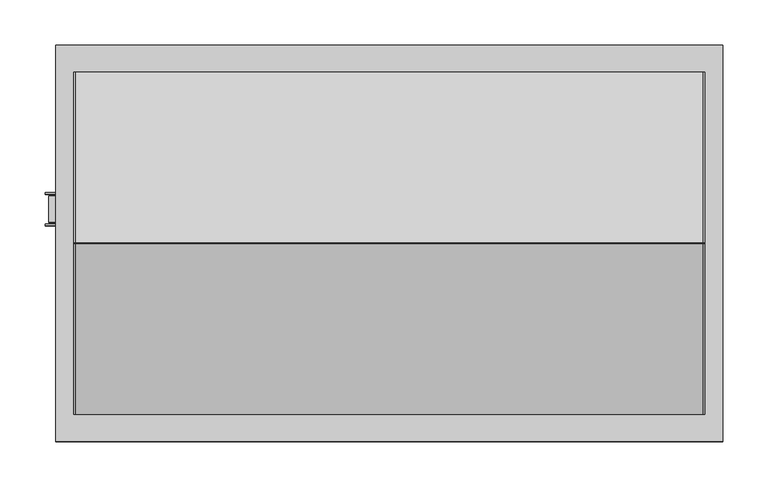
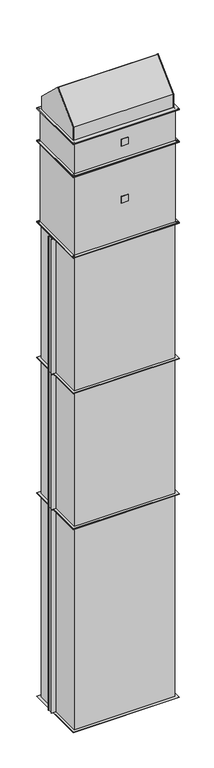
"""IFC4 building model written with IfcOpenShell, lengths in millimetres: proxy geometry, KORF_Завеса_БезНагрева_PWZ_C : PWZ-C 70-40 H."""

from ifc_helpers import new_model, si_unit, point, frame, frame_2d, origin, origin_with_axes, place, context, project, spatial, polyline, circle_curve, trimmed, segment, composite_curve, outline, extrude, source, transform, mapped, element, save


def mechanical_equipment_e74dfba3(model_context):
    return source(origin(), model_context, "Body", "SweptSolid", [
        extrude(outline(polyline([(25.0, -205.0), (-25.0, -205.0), (-25.0, -203.0), (25.0, -203.0), (25.0, -205.0)])), frame((0.0, 0.0, 4196.0), z_axis=(0.0, 0.0, 1.0), x_axis=(1.0, 0.0, 0.0)), (0.0, 0.0, 1.0), 50.0),
        extrude(outline(polyline([(-370.0, -220.0), (-370.0, 220.0), (370.0, 220.0), (370.0, -220.0), (-370.0, -220.0)]), holes=[polyline([(-350.0, -200.0), (350.0, -200.0), (350.0, 200.0), (-350.0, 200.0), (-350.0, -200.0)]), composite_curve([segment(trimmed(circle_curve(frame_2d((360.0, -210.0)), 4.5), [point((364.5, -210.0))], [point((355.5, -210.0))], True, "CARTESIAN"), True, "CONTINUOUS"), segment(trimmed(circle_curve(frame_2d((360.0, -210.0)), 4.5), [point((355.5, -210.0))], [point((364.5, -210.0))], True, "CARTESIAN"), True, "CONTINUOUS")], self_intersect=False), composite_curve([segment(trimmed(circle_curve(frame_2d((-360.0, -210.0)), 4.5), [point((-355.5, -210.0))], [point((-364.5, -210.0))], True, "CARTESIAN"), True, "CONTINUOUS"), segment(trimmed(circle_curve(frame_2d((-360.0, -210.0)), 4.5), [point((-364.5, -210.0))], [point((-355.5, -210.0))], True, "CARTESIAN"), True, "CONTINUOUS")], self_intersect=False), composite_curve([segment(trimmed(circle_curve(frame_2d((-360.0, 210.0)), 4.5), [point((-355.5, 210.0))], [point((-364.5, 210.0))], True, "CARTESIAN"), True, "CONTINUOUS"), segment(trimmed(circle_curve(frame_2d((-360.0, 210.0)), 4.5), [point((-364.5, 210.0))], [point((-355.5, 210.0))], True, "CARTESIAN"), True, "CONTINUOUS")], self_intersect=False), composite_curve([segment(trimmed(circle_curve(frame_2d((360.0, 210.0)), 4.5), [point((364.5, 210.0))], [point((355.5, 210.0))], True, "CARTESIAN"), True, "CONTINUOUS"), segment(trimmed(circle_curve(frame_2d((360.0, 210.0)), 4.5), [point((355.5, 210.0))], [point((364.5, 210.0))], True, "CARTESIAN"), True, "CONTINUOUS")], self_intersect=False)]), frame((0.0, 0.0, 4100.0), z_axis=(0.0, 0.0, 1.0), x_axis=(1.0, 0.0, 0.0)), (0.0, 0.0, 1.0), 5.0),
        extrude(outline(polyline([(-370.0, -220.0), (-370.0, 220.0), (370.0, 220.0), (370.0, -220.0), (-370.0, -220.0)]), holes=[polyline([(-350.0, -200.0), (350.0, -200.0), (350.0, 200.0), (-350.0, 200.0), (-350.0, -200.0)]), composite_curve([segment(trimmed(circle_curve(frame_2d((360.0, -210.0)), 4.5), [point((364.5, -210.0))], [point((355.5, -210.0))], True, "CARTESIAN"), True, "CONTINUOUS"), segment(trimmed(circle_curve(frame_2d((360.0, -210.0)), 4.5), [point((355.5, -210.0))], [point((364.5, -210.0))], True, "CARTESIAN"), True, "CONTINUOUS")], self_intersect=False), composite_curve([segment(trimmed(circle_curve(frame_2d((-360.0, -210.0)), 4.5), [point((-355.5, -210.0))], [point((-364.5, -210.0))], True, "CARTESIAN"), True, "CONTINUOUS"), segment(trimmed(circle_curve(frame_2d((-360.0, -210.0)), 4.5), [point((-364.5, -210.0))], [point((-355.5, -210.0))], True, "CARTESIAN"), True, "CONTINUOUS")], self_intersect=False), composite_curve([segment(trimmed(circle_curve(frame_2d((-360.0, 210.0)), 4.5), [point((-355.5, 210.0))], [point((-364.5, 210.0))], True, "CARTESIAN"), True, "CONTINUOUS"), segment(trimmed(circle_curve(frame_2d((-360.0, 210.0)), 4.5), [point((-364.5, 210.0))], [point((-355.5, 210.0))], True, "CARTESIAN"), True, "CONTINUOUS")], self_intersect=False), composite_curve([segment(trimmed(circle_curve(frame_2d((360.0, 210.0)), 4.5), [point((364.5, 210.0))], [point((355.5, 210.0))], True, "CARTESIAN"), True, "CONTINUOUS"), segment(trimmed(circle_curve(frame_2d((360.0, 210.0)), 4.5), [point((355.5, 210.0))], [point((364.5, 210.0))], True, "CARTESIAN"), True, "CONTINUOUS")], self_intersect=False)]), frame((0.0, 0.0, 4337.0), z_axis=(0.0, 0.0, 1.0), x_axis=(1.0, 0.0, 0.0)), (0.0, 0.0, 1.0), 5.0),
        extrude(outline(polyline([(-353.0, -203.0), (-353.0, 203.0), (353.0, 203.0), (353.0, -203.0), (-353.0, -203.0)])), frame((0.0, 0.0, 4105.0), z_axis=(0.0, 0.0, 1.0), x_axis=(1.0, 0.0, 0.0)), (0.0, 0.0, 1.0), 232.0),
        extrude(outline(polyline([(25.0, -205.0), (-25.0, -205.0), (-25.0, -203.0), (25.0, -203.0), (25.0, -205.0)])), frame((0.0, 0.0, 3775.0), z_axis=(0.0, 0.0, 1.0), x_axis=(1.0, 0.0, 0.0)), (0.0, 0.0, 1.0), 50.0),
        extrude(outline(polyline([(370.0, -220.0), (-370.0, -220.0), (-370.0, 220.0), (370.0, 220.0), (370.0, -220.0)]), holes=[polyline([(350.0, -200.0), (350.0, 200.0), (-350.0, 200.0), (-350.0, -200.0), (350.0, -200.0)]), composite_curve([segment(trimmed(circle_curve(frame_2d((-360.0, -210.0)), 4.5), [point((-355.5, -210.0))], [point((-364.5, -210.0))], True, "CARTESIAN"), True, "CONTINUOUS"), segment(trimmed(circle_curve(frame_2d((-360.0, -210.0)), 4.5), [point((-364.5, -210.0))], [point((-355.5, -210.0))], True, "CARTESIAN"), True, "CONTINUOUS")], self_intersect=False), composite_curve([segment(trimmed(circle_curve(frame_2d((360.0, -210.0)), 4.5), [point((364.5, -210.0))], [point((355.5, -210.0))], True, "CARTESIAN"), True, "CONTINUOUS"), segment(trimmed(circle_curve(frame_2d((360.0, -210.0)), 4.5), [point((355.5, -210.0))], [point((364.5, -210.0))], True, "CARTESIAN"), True, "CONTINUOUS")], self_intersect=False), composite_curve([segment(trimmed(circle_curve(frame_2d((360.0, 210.0)), 4.5), [point((364.5, 210.0))], [point((355.5, 210.0))], True, "CARTESIAN"), True, "CONTINUOUS"), segment(trimmed(circle_curve(frame_2d((360.0, 210.0)), 4.5), [point((355.5, 210.0))], [point((364.5, 210.0))], True, "CARTESIAN"), True, "CONTINUOUS")], self_intersect=False), composite_curve([segment(trimmed(circle_curve(frame_2d((-360.0, 210.0)), 4.5), [point((-355.5, 210.0))], [point((-364.5, 210.0))], True, "CARTESIAN"), True, "CONTINUOUS"), segment(trimmed(circle_curve(frame_2d((-360.0, 210.0)), 4.5), [point((-364.5, 210.0))], [point((-355.5, 210.0))], True, "CARTESIAN"), True, "CONTINUOUS")], self_intersect=False)]), frame((0.0, 0.0, 4095.0), z_axis=(0.0, 0.0, 1.0), x_axis=(1.0, 0.0, 0.0)), (0.0, 0.0, 1.0), 5.0),
        extrude(outline(polyline([(370.0, -220.0), (-370.0, -220.0), (-370.0, 220.0), (370.0, 220.0), (370.0, -220.0)]), holes=[polyline([(350.0, -200.0), (350.0, 200.0), (-350.0, 200.0), (-350.0, -200.0), (350.0, -200.0)]), composite_curve([segment(trimmed(circle_curve(frame_2d((-360.0, -210.0)), 4.5), [point((-355.5, -210.0))], [point((-364.5, -210.0))], True, "CARTESIAN"), True, "CONTINUOUS"), segment(trimmed(circle_curve(frame_2d((-360.0, -210.0)), 4.5), [point((-364.5, -210.0))], [point((-355.5, -210.0))], True, "CARTESIAN"), True, "CONTINUOUS")], self_intersect=False), composite_curve([segment(trimmed(circle_curve(frame_2d((360.0, -210.0)), 4.5), [point((364.5, -210.0))], [point((355.5, -210.0))], True, "CARTESIAN"), True, "CONTINUOUS"), segment(trimmed(circle_curve(frame_2d((360.0, -210.0)), 4.5), [point((355.5, -210.0))], [point((364.5, -210.0))], True, "CARTESIAN"), True, "CONTINUOUS")], self_intersect=False), composite_curve([segment(trimmed(circle_curve(frame_2d((360.0, 210.0)), 4.5), [point((364.5, 210.0))], [point((355.5, 210.0))], True, "CARTESIAN"), True, "CONTINUOUS"), segment(trimmed(circle_curve(frame_2d((360.0, 210.0)), 4.5), [point((355.5, 210.0))], [point((364.5, 210.0))], True, "CARTESIAN"), True, "CONTINUOUS")], self_intersect=False), composite_curve([segment(trimmed(circle_curve(frame_2d((-360.0, 210.0)), 4.5), [point((-355.5, 210.0))], [point((-364.5, 210.0))], True, "CARTESIAN"), True, "CONTINUOUS"), segment(trimmed(circle_curve(frame_2d((-360.0, 210.0)), 4.5), [point((-364.5, 210.0))], [point((-355.5, 210.0))], True, "CARTESIAN"), True, "CONTINUOUS")], self_intersect=False)]), frame((0.0, 0.0, 3500.0), z_axis=(0.0, 0.0, 1.0), x_axis=(1.0, 0.0, 0.0)), (0.0, 0.0, 1.0), 5.0),
        extrude(outline(polyline([(353.0, -203.0), (-353.0, -203.0), (-353.0, 203.0), (353.0, 203.0), (353.0, -203.0)])), frame((0.0, 0.0, 3505.0), z_axis=(0.0, 0.0, 1.0), x_axis=(1.0, 0.0, 0.0)), (0.0, 0.0, 1.0), 590.0),
        extrude(outline(polyline([(350.0, 200.0), (350.0, -200.0), (-350.0, -200.0), (-350.0, 200.0), (350.0, 200.0)])), frame((0.0, 0.0, 2500.0), z_axis=(0.0, 0.0, 1.0), x_axis=(1.0, 0.0, 0.0)), (0.0, 0.0, 1.0), 1000.0),
        extrude(outline(polyline([(-378.0, 52.5), (-350.0, 52.5), (-350.0, 23.5), (-378.0, 23.5), (-378.0, 52.5)])), frame((0.0, 0.0, 2502.0), z_axis=(0.0, 0.0, 1.0), x_axis=(1.0, 0.0, 0.0)), (0.0, 0.0, 1.0), 996.0),
        extrude(outline(polyline([(-382.0, 56.5), (-350.0, 56.5), (-350.0, 54.5), (-382.0, 54.5), (-382.0, 56.5)])), frame((0.0, 0.0, 2502.0), z_axis=(0.0, 0.0, 1.0), x_axis=(1.0, 0.0, 0.0)), (0.0, 0.0, 1.0), 996.0),
        extrude(outline(polyline([(-382.0, 19.5), (-382.0, 21.5), (-350.0, 21.5), (-350.0, 19.5), (-382.0, 19.5)])), frame((0.0, 0.0, 2502.0), z_axis=(0.0, 0.0, 1.0), x_axis=(1.0, 0.0, 0.0)), (0.0, 0.0, 1.0), 996.0),
        extrude(outline(polyline([(370.0, 220.0), (370.0, -220.0), (-370.0, -220.0), (-370.0, 220.0), (370.0, 220.0)]), holes=[polyline([(350.0, 200.0), (-350.0, 200.0), (-350.0, -200.0), (350.0, -200.0), (350.0, 200.0)])]), frame((0.0, 0.0, 3498.0), z_axis=(0.0, 0.0, 1.0), x_axis=(1.0, 0.0, 0.0)), (0.0, 0.0, 1.0), 2.0),
        extrude(outline(polyline([(370.0, 220.0), (370.0, -220.0), (-370.0, -220.0), (-370.0, 220.0), (370.0, 220.0)]), holes=[polyline([(350.0, 200.0), (-350.0, 200.0), (-350.0, -200.0), (350.0, -200.0), (350.0, 200.0)])]), frame((0.0, 0.0, 2500.0), z_axis=(0.0, 0.0, 1.0), x_axis=(1.0, 0.0, 0.0)), (0.0, 0.0, 1.0), 2.0),
        extrude(outline(polyline([(350.0, 200.0), (350.0, -200.0), (-350.0, -200.0), (-350.0, 200.0), (350.0, 200.0)])), frame((0.0, 0.0, 1500.0), z_axis=(0.0, 0.0, 1.0), x_axis=(1.0, 0.0, 0.0)), (0.0, 0.0, 1.0), 1000.0),
        extrude(outline(polyline([(-378.0, 52.5), (-350.0, 52.5), (-350.0, 23.5), (-378.0, 23.5), (-378.0, 52.5)])), frame((0.0, 0.0, 1502.0), z_axis=(0.0, 0.0, 1.0), x_axis=(1.0, 0.0, 0.0)), (0.0, 0.0, 1.0), 996.0),
        extrude(outline(polyline([(-382.0, 56.5), (-350.0, 56.5), (-350.0, 54.5), (-382.0, 54.5), (-382.0, 56.5)])), frame((0.0, 0.0, 1502.0), z_axis=(0.0, 0.0, 1.0), x_axis=(1.0, 0.0, 0.0)), (0.0, 0.0, 1.0), 996.0),
        extrude(outline(polyline([(-382.0, 19.5), (-382.0, 21.5), (-350.0, 21.5), (-350.0, 19.5), (-382.0, 19.5)])), frame((0.0, 0.0, 1502.0), z_axis=(0.0, 0.0, 1.0), x_axis=(1.0, 0.0, 0.0)), (0.0, 0.0, 1.0), 996.0),
        extrude(outline(polyline([(370.0, 220.0), (370.0, -220.0), (-370.0, -220.0), (-370.0, 220.0), (370.0, 220.0)]), holes=[polyline([(350.0, 200.0), (-350.0, 200.0), (-350.0, -200.0), (350.0, -200.0), (350.0, 200.0)])]), frame((0.0, 0.0, 2498.0), z_axis=(0.0, 0.0, 1.0), x_axis=(1.0, 0.0, 0.0)), (0.0, 0.0, 1.0), 2.0),
        extrude(outline(polyline([(370.0, 220.0), (370.0, -220.0), (-370.0, -220.0), (-370.0, 220.0), (370.0, 220.0)]), holes=[polyline([(350.0, 200.0), (-350.0, 200.0), (-350.0, -200.0), (350.0, -200.0), (350.0, 200.0)])]), frame((0.0, 0.0, 1500.0), z_axis=(0.0, 0.0, 1.0), x_axis=(1.0, 0.0, 0.0)), (0.0, 0.0, 1.0), 2.0),
        extrude(outline(polyline([(350.0, 200.0), (350.0, -200.0), (-350.0, -200.0), (-350.0, 200.0), (350.0, 200.0)])), origin_with_axes(), (0.0, 0.0, 1.0), 1500.0),
        extrude(outline(polyline([(-378.0, 52.5), (-350.0, 52.5), (-350.0, 23.5), (-378.0, 23.5), (-378.0, 52.5)])), frame((0.0, 0.0, 2.0), z_axis=(0.0, 0.0, 1.0), x_axis=(1.0, 0.0, 0.0)), (0.0, 0.0, 1.0), 1496.0),
        extrude(outline(polyline([(-382.0, 56.5), (-350.0, 56.5), (-350.0, 54.5), (-382.0, 54.5), (-382.0, 56.5)])), frame((0.0, 0.0, 2.0), z_axis=(0.0, 0.0, 1.0), x_axis=(1.0, 0.0, 0.0)), (0.0, 0.0, 1.0), 1496.0),
        extrude(outline(polyline([(-382.0, 19.5), (-382.0, 21.5), (-350.0, 21.5), (-350.0, 19.5), (-382.0, 19.5)])), frame((0.0, 0.0, 2.0), z_axis=(0.0, 0.0, 1.0), x_axis=(1.0, 0.0, 0.0)), (0.0, 0.0, 1.0), 1496.0),
        extrude(outline(polyline([(370.0, 220.0), (370.0, -220.0), (-370.0, -220.0), (-370.0, 220.0), (370.0, 220.0)]), holes=[polyline([(350.0, 200.0), (-350.0, 200.0), (-350.0, -200.0), (350.0, -200.0), (350.0, 200.0)])]), frame((0.0, 0.0, 1498.0), z_axis=(0.0, 0.0, 1.0), x_axis=(1.0, 0.0, 0.0)), (0.0, 0.0, 1.0), 2.0),
        extrude(outline(polyline([(370.0, 220.0), (370.0, -220.0), (-370.0, -220.0), (-370.0, 220.0), (370.0, 220.0)]), holes=[polyline([(350.0, 200.0), (-350.0, 200.0), (-350.0, -200.0), (350.0, -200.0), (350.0, 200.0)])]), origin_with_axes(), (0.0, 0.0, 1.0), 2.0),
        extrude(outline(composite_curve([segment(polyline([(190.0, 4439.1428571), (190.0, 4344.0), (-190.0, 4344.0), (-190.0, 4439.1428571), (-0.6395979, 4621.3786763)]), True, "CONTINUOUS"), segment(trimmed(circle_curve(frame_2d((0.0, 4620.7202668)), 0.9179263), [point((-0.6395979, 4621.3786763))], [point((0.6395979, 4621.3786763))], False, "CARTESIAN"), True, "CONTINUOUS"), segment(polyline([(0.6395979, 4621.3786763), (190.0, 4439.1428571)]), True, "CONTINUOUS")], self_intersect=False)), frame((348.0, 0.0, 0.0), z_axis=(1.0, 0.0, 0.0), x_axis=(0.0, 1.0, 0.0)), (0.0, 0.0, 1.0), 2.0),
        extrude(outline(composite_curve([segment(polyline([(190.0, 4439.1428571), (190.0, 4344.0), (-190.0, 4344.0), (-190.0, 4439.1428571), (-0.6395979, 4621.3786763)]), True, "CONTINUOUS"), segment(trimmed(circle_curve(frame_2d((0.0, 4620.7202668)), 0.9179263), [point((-0.6395979, 4621.3786763))], [point((0.6395979, 4621.3786763))], False, "CARTESIAN"), True, "CONTINUOUS"), segment(polyline([(0.6395979, 4621.3786763), (190.0, 4439.1428571)]), True, "CONTINUOUS")], self_intersect=False)), frame((-348.0, 0.0, 0.0), z_axis=(1.0, 0.0, 0.0), x_axis=(0.0, 1.0, 0.0)), (0.0, 0.0, 1.0), 696.0),
        extrude(outline(composite_curve([segment(polyline([(190.0, 4439.1428571), (190.0, 4344.0), (-190.0, 4344.0), (-190.0, 4439.1428571), (-0.6395979, 4621.3786763)]), True, "CONTINUOUS"), segment(trimmed(circle_curve(frame_2d((0.0, 4620.7202668)), 0.9179263), [point((-0.6395979, 4621.3786763))], [point((0.6395979, 4621.3786763))], False, "CARTESIAN"), True, "CONTINUOUS"), segment(polyline([(0.6395979, 4621.3786763), (190.0, 4439.1428571)]), True, "CONTINUOUS")], self_intersect=False)), frame((-350.0, 0.0, 0.0), z_axis=(1.0, 0.0, 0.0), x_axis=(0.0, 1.0, 0.0)), (0.0, 0.0, 1.0), 2.0),
        extrude(outline(polyline([(370.0, 220.0), (370.0, -220.0), (-370.0, -220.0), (-370.0, 220.0), (370.0, 220.0)]), holes=[polyline([(-350.0, 190.0), (-350.0, -190.0), (350.0, -190.0), (350.0, 190.0), (-350.0, 190.0)])]), frame((0.0, 0.0, 4342.0), z_axis=(0.0, 0.0, 1.0), x_axis=(1.0, 0.0, 0.0)), (0.0, 0.0, 1.0), 2.0),
    ])


if __name__ == "__main__":
    model = new_model("IFC4")
    model_context = context("Model", 3, world=origin())
    ifc_project = project(units=[si_unit("LENGTHUNIT", "METRE", prefix="MILLI")], contexts=[model_context])
    site = spatial("IfcSite", under=ifc_project)
    building = spatial("IfcBuilding", under=site)
    placement = place(None, origin())
    mechanical_equipment_shape = mechanical_equipment_e74dfba3(model_context)
    element("IfcBuildingElementProxy", 1, Name="KORF_Завеса_БезНагрева_PWZ_C : PWZ-C 70-40 H", ObjectType="KORF_Завеса_БезНагрева_PWZ_C : PWZ-C 70-40 H", at=placement, inside=building, context=model_context, shape_type="MappedRepresentation", body=[
        mapped(mechanical_equipment_shape, transform((0.0, 0.0, 0.0), x_axis=(1.0, 0.0, 0.0), y_axis=(0.0, 1.0, 0.0), z_axis=(0.0, 0.0, 1.0))),
    ])
    save(model, "model.ifc")
